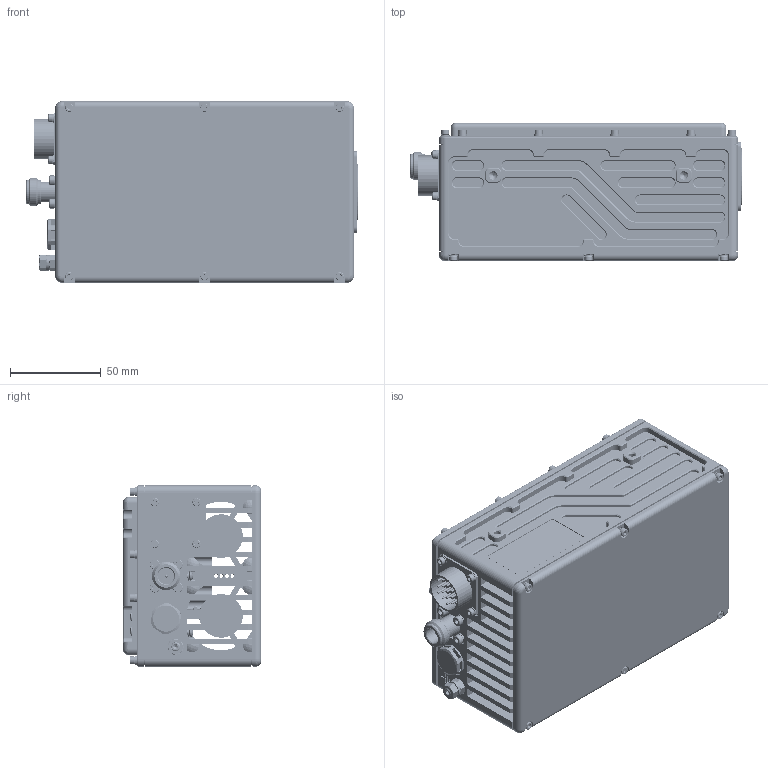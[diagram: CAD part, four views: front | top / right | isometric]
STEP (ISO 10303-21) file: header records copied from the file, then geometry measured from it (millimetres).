
FILE_DESCRIPTION (( 'STEP AP214' ), '1' );
FILE_NAME ('ALKU GEN-2_FILLED_ASSEMBLY.STEP', '2023-02-26T13:54:51', ( '' ), ( '' ), 'SwSTEP 2.0', 'SolidWorks 2019', '' );
FILE_SCHEMA (( 'AUTOMOTIVE_DESIGN' ));
Length unit declared in the file: millimetre
Products named in the file (30): Connector-Amphenol-172117; Label-1x2in; vent-Amphenol-ps1xxx; SCREW_DIN7985_M2.5_x8mm_long; lightpipe_red; 700-0002-00; 700-0008-00, GND SET SCREW, ASSY; 400-0056-00; M5 NUT_94150A340; 400-0020-00; Washer_Split_Lock_M2.5; SEAL_PLUG; 700-0001-01; SCREW_M2.5x6_92290A056_SHCS_92290A056; Gasket, connector; Fan_9WL0412P3J001; Connector-Amphenol-PT02E-14-19P; ALKU GEN-2_FILLED_ASSEMBLY; ALKA40_V3-MOUNT BRACKET, FANS; 400-0079-00; FM_5_3_FM-7-CUT-28; Screw_M3x8_92290A113_316_SS_SHCS_92290A113; O-RING_2.5x27; Washer_Flat_M2.5_98689A111_98689A111; Flange-WR62; M5 SPLIT LOCK WASHER_94241A530; M5 X 20, SET SCREW_92605A243; SCREW_M2.5x10_92290A060_316_SS_SHCS_92290A060; Washer_Split_Lock_M3; 600-0002-00
Assembly tree (112 placements, depth 3):
  ALKU GEN-2_FILLED_ASSEMBLY
    400-0056-00
    700-0002-00
      O-RING_2.5x27  x2
      Flange-WR62
      SEAL_PLUG
    400-0020-00
    400-0079-00
    Connector-Amphenol-172117
    600-0002-00
      Connector-Amphenol-PT02E-14-19P
    vent-Amphenol-ps1xxx
    lightpipe_red  x2
    700-0008-00, GND SET SCREW, ASSY
      M5 X 20, SET SCREW_92605A243
      M5 NUT_94150A340  x2
      M5 SPLIT LOCK WASHER_94241A530
    Gasket, connector
    700-0001-01
      ALKA40_V3-MOUNT BRACKET, FANS
      Fan_9WL0412P3J001  x2
      FM_5_3_FM-7-CUT-28  x8
    Label-1x2in  x2
    Washer_Split_Lock_M2.5  x25
    Washer_Split_Lock_M3  x8
    Washer_Flat_M2.5_98689A111_98689A111  x12
    SCREW_DIN7985_M2.5_x8mm_long  x3
    Screw_M3x8_92290A113_316_SS_SHCS_92290A113  x8
    SCREW_M2.5x6_92290A056_SHCS_92290A056  x10
    SCREW_M2.5x10_92290A060_316_SS_SHCS_92290A060  x12
Bounding box: 183 x 76.1 x 100 mm (x, y, z)
Volume: 509315.8 mm3; surface area: 317910.4 mm2
Topology: 110 solids, 110 shells, 5755 faces, 14886 edges, 9515 vertices
Faces by surface type: cylinder 3291, plane 1473, cone 804, bspline 91, torus 64, sphere 32
Entity records: 97868 total; most frequent: CARTESIAN_POINT 26030, DIRECTION 12801, ORIENTED_EDGE 12574, EDGE_CURVE 6287, AXIS2_PLACEMENT_3D 4657, VERTEX_POINT 4012, VECTOR 3487, LINE 3487
